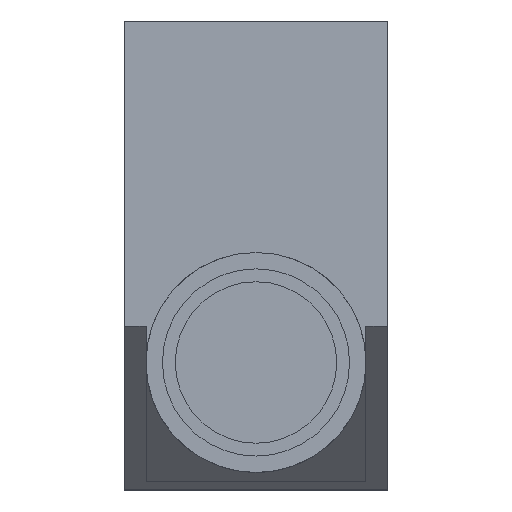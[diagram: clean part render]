
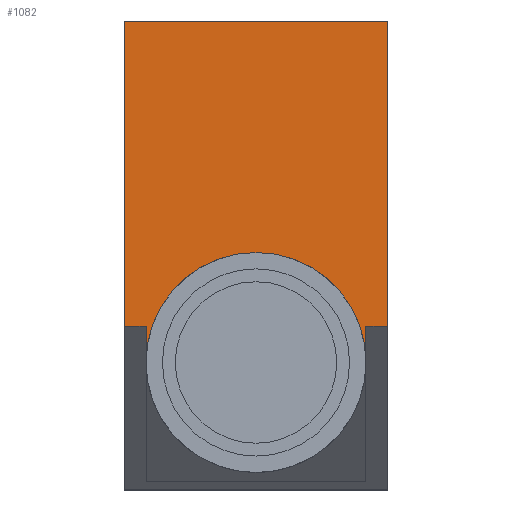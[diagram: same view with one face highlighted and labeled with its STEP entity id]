
A CAD part, front view. The second image highlights one B-rep face of the part: STEP entity #1082.
In plain terms, the highlighted planar face has unit normal (0, -1, 0).
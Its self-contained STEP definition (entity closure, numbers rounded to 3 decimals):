
#47 = ORIENTED_EDGE ( 'NONE', *, *, #2259, .T. ) ;
#116 = VECTOR ( 'NONE', #2300, 1000. ) ;
#137 = CARTESIAN_POINT ( 'NONE',  ( 5.6, -14., -13. ) ) ;
#244 = CARTESIAN_POINT ( 'NONE',  ( -5.6, -14., 0. ) ) ;
#249 = CARTESIAN_POINT ( 'NONE',  ( 0., -14., -14.55 ) ) ;
#261 = ORIENTED_EDGE ( 'NONE', *, *, #365, .F. ) ;
#262 = DIRECTION ( 'NONE',  ( -1., 0., 0. ) ) ;
#325 = DIRECTION ( 'NONE',  ( 1., 0., 0. ) ) ;
#365 = EDGE_CURVE ( 'NONE', #439, #450, #435, .T. ) ;
#374 = EDGE_CURVE ( 'NONE', #576, #2035, #981, .T. ) ;
#394 = EDGE_CURVE ( 'NONE', #439, #1254, #683, .T. ) ;
#435 = CIRCLE ( 'NONE', #1451, 4.7 ) ;
#439 = VERTEX_POINT ( 'NONE', #1945 ) ;
#442 = DIRECTION ( 'NONE',  ( 0., -1., 0. ) ) ;
#445 = EDGE_CURVE ( 'NONE', #576, #1802, #694, .T. ) ;
#450 = VERTEX_POINT ( 'NONE', #2132 ) ;
#464 = DIRECTION ( 'NONE',  ( 0., -1., 0. ) ) ;
#470 = FACE_OUTER_BOUND ( 'NONE', #1395, .T. ) ;
#473 = DIRECTION ( 'NONE',  ( 0., 0., 1. ) ) ;
#481 = ORIENTED_EDGE ( 'NONE', *, *, #816, .T. ) ;
#524 = VERTEX_POINT ( 'NONE', #1640 ) ;
#552 = ORIENTED_EDGE ( 'NONE', *, *, #445, .F. ) ;
#576 = VERTEX_POINT ( 'NONE', #1282 ) ;
#683 = LINE ( 'NONE', #1574, #116 ) ;
#694 = LINE ( 'NONE', #1364, #2050 ) ;
#708 = AXIS2_PLACEMENT_3D ( 'NONE', #1363, #464, #473 ) ;
#732 = CARTESIAN_POINT ( 'NONE',  ( -4.7, -14., -13. ) ) ;
#754 = ORIENTED_EDGE ( 'NONE', *, *, #394, .T. ) ;
#768 = ORIENTED_EDGE ( 'NONE', *, *, #1204, .F. ) ;
#807 = VERTEX_POINT ( 'NONE', #732 ) ;
#808 = PLANE ( 'NONE',  #2029 ) ;
#816 = EDGE_CURVE ( 'NONE', #1254, #860, #1059, .T. ) ;
#860 = VERTEX_POINT ( 'NONE', #877 ) ;
#870 = DIRECTION ( 'NONE',  ( -1., 0., 0. ) ) ;
#877 = CARTESIAN_POINT ( 'NONE',  ( 4.7, -14., -13. ) ) ;
#897 = VECTOR ( 'NONE', #1101, 1000. ) ;
#913 = CARTESIAN_POINT ( 'NONE',  ( -4.7, -14., -13. ) ) ;
#965 = CARTESIAN_POINT ( 'NONE',  ( 5.6, -14., -13. ) ) ;
#981 = LINE ( 'NONE', #1902, #2171 ) ;
#991 = EDGE_CURVE ( 'NONE', #1802, #860, #1306, .T. ) ;
#1059 = LINE ( 'NONE', #1459, #1492 ) ;
#1063 = LINE ( 'NONE', #1936, #1572 ) ;
#1082 = ADVANCED_FACE ( 'NONE', ( #470 ), #808, .F. ) ;
#1101 = DIRECTION ( 'NONE',  ( 0., 0., -1. ) ) ;
#1204 = EDGE_CURVE ( 'NONE', #450, #2223, #1610, .T. ) ;
#1254 = VERTEX_POINT ( 'NONE', #1437 ) ;
#1282 = CARTESIAN_POINT ( 'NONE',  ( 5.6, -14., 0. ) ) ;
#1291 = LINE ( 'NONE', #913, #897 ) ;
#1293 = ORIENTED_EDGE ( 'NONE', *, *, #374, .T. ) ;
#1306 = LINE ( 'NONE', #965, #1422 ) ;
#1313 = ORIENTED_EDGE ( 'NONE', *, *, #991, .F. ) ;
#1351 = VECTOR ( 'NONE', #870, 1000. ) ;
#1352 = CARTESIAN_POINT ( 'NONE',  ( 5.6, -14., 0. ) ) ;
#1362 = DIRECTION ( 'NONE',  ( 0., 1., 0. ) ) ;
#1363 = CARTESIAN_POINT ( 'NONE',  ( 0., -14., -14.55 ) ) ;
#1364 = CARTESIAN_POINT ( 'NONE',  ( 5.6, -14., 0. ) ) ;
#1370 = LINE ( 'NONE', #2093, #1728 ) ;
#1395 = EDGE_LOOP ( 'NONE', ( #261, #754, #481, #1313, #552, #1293, #47, #1680, #1877, #1757, #768 ) ) ;
#1414 = DIRECTION ( 'NONE',  ( 0., 0., -1. ) ) ;
#1422 = VECTOR ( 'NONE', #1496, 1000. ) ;
#1437 = CARTESIAN_POINT ( 'NONE',  ( 4.7, -14., -14.485 ) ) ;
#1446 = DIRECTION ( 'NONE',  ( 0., 0., 1. ) ) ;
#1451 = AXIS2_PLACEMENT_3D ( 'NONE', #249, #442, #1871 ) ;
#1459 = CARTESIAN_POINT ( 'NONE',  ( 4.7, -14., -14.55 ) ) ;
#1490 = CARTESIAN_POINT ( 'NONE',  ( 5.6, -14., -13. ) ) ;
#1492 = VECTOR ( 'NONE', #1446, 1000. ) ;
#1496 = DIRECTION ( 'NONE',  ( -1., 0., 0. ) ) ;
#1555 = LINE ( 'NONE', #137, #1351 ) ;
#1570 = CARTESIAN_POINT ( 'NONE',  ( -4.7, -14., -14.485 ) ) ;
#1572 = VECTOR ( 'NONE', #325, 1000. ) ;
#1574 = CARTESIAN_POINT ( 'NONE',  ( 0., -14., -14.485 ) ) ;
#1610 = CIRCLE ( 'NONE', #708, 4.7 ) ;
#1640 = CARTESIAN_POINT ( 'NONE',  ( -5.6, -14., -13. ) ) ;
#1680 = ORIENTED_EDGE ( 'NONE', *, *, #2181, .F. ) ;
#1728 = VECTOR ( 'NONE', #1778, 1000. ) ;
#1757 = ORIENTED_EDGE ( 'NONE', *, *, #2080, .T. ) ;
#1778 = DIRECTION ( 'NONE',  ( 0., 0., -1. ) ) ;
#1802 = VERTEX_POINT ( 'NONE', #1490 ) ;
#1871 = DIRECTION ( 'NONE',  ( 0., 0., 1. ) ) ;
#1877 = ORIENTED_EDGE ( 'NONE', *, *, #2316, .T. ) ;
#1902 = CARTESIAN_POINT ( 'NONE',  ( 5.6, -14., 0. ) ) ;
#1936 = CARTESIAN_POINT ( 'NONE',  ( 0., -14., -14.485 ) ) ;
#1945 = CARTESIAN_POINT ( 'NONE',  ( 4.7, -14., -14.485 ) ) ;
#1947 = CARTESIAN_POINT ( 'NONE',  ( -4.7, -14., -14.485 ) ) ;
#2029 = AXIS2_PLACEMENT_3D ( 'NONE', #1352, #1362, #2075 ) ;
#2035 = VERTEX_POINT ( 'NONE', #244 ) ;
#2050 = VECTOR ( 'NONE', #1414, 1000. ) ;
#2075 = DIRECTION ( 'NONE',  ( 0., 0., 1. ) ) ;
#2080 = EDGE_CURVE ( 'NONE', #2084, #2223, #1063, .T. ) ;
#2084 = VERTEX_POINT ( 'NONE', #1947 ) ;
#2093 = CARTESIAN_POINT ( 'NONE',  ( -5.6, -14., 0. ) ) ;
#2132 = CARTESIAN_POINT ( 'NONE',  ( 0., -14., -9.85 ) ) ;
#2171 = VECTOR ( 'NONE', #262, 1000. ) ;
#2181 = EDGE_CURVE ( 'NONE', #807, #524, #1555, .T. ) ;
#2223 = VERTEX_POINT ( 'NONE', #1570 ) ;
#2259 = EDGE_CURVE ( 'NONE', #2035, #524, #1370, .T. ) ;
#2300 = DIRECTION ( 'NONE',  ( 1., 0., 0. ) ) ;
#2316 = EDGE_CURVE ( 'NONE', #807, #2084, #1291, .T. ) ;
